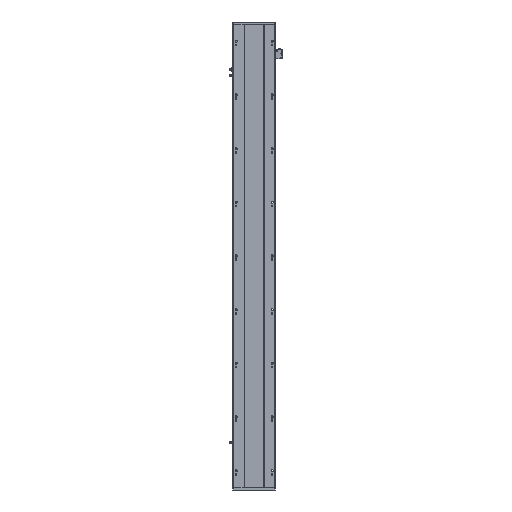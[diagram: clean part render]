
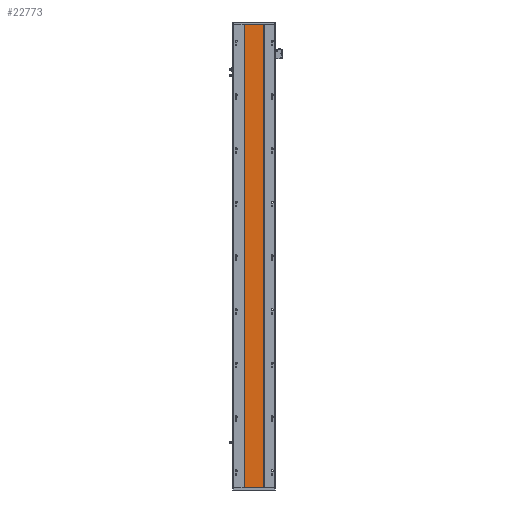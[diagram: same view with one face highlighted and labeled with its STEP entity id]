
A CAD part, front view. The second image highlights one B-rep face of the part: STEP entity #22773.
In plain terms, the highlighted planar face has unit normal (0, -1, 0).
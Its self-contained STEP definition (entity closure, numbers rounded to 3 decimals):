
#425 = CARTESIAN_POINT ( 'NONE',  ( 129.288, 16.9, 1864. ) ) ;
#1066 = LINE ( 'NONE', #23420, #14436 ) ;
#1741 = EDGE_CURVE ( 'NONE', #28875, #22300, #5512, .T. ) ;
#4676 = CARTESIAN_POINT ( 'NONE',  ( 205.288, 16.9, 1864. ) ) ;
#5512 = LINE ( 'NONE', #425, #18432 ) ;
#6709 = EDGE_CURVE ( 'NONE', #8878, #16691, #1066, .T. ) ;
#7249 = AXIS2_PLACEMENT_3D ( 'NONE', #4676, #19497, #22190 ) ;
#7936 = CARTESIAN_POINT ( 'NONE',  ( 129.288, 16.9, 0. ) ) ;
#8878 = VERTEX_POINT ( 'NONE', #13503 ) ;
#11736 = ORIENTED_EDGE ( 'NONE', *, *, #21403, .F. ) ;
#11848 = FACE_OUTER_BOUND ( 'NONE', #20132, .T. ) ;
#13503 = CARTESIAN_POINT ( 'NONE',  ( 205.288, 16.9, 1864. ) ) ;
#13556 = PLANE ( 'NONE',  #7249 ) ;
#13667 = DIRECTION ( 'NONE',  ( 1., 0., 0. ) ) ;
#13749 = VECTOR ( 'NONE', #13667, 1000. ) ;
#13807 = ORIENTED_EDGE ( 'NONE', *, *, #1741, .T. ) ;
#14436 = VECTOR ( 'NONE', #29069, 1000. ) ;
#15100 = ORIENTED_EDGE ( 'NONE', *, *, #6709, .F. ) ;
#16691 = VERTEX_POINT ( 'NONE', #27665 ) ;
#17854 = EDGE_CURVE ( 'NONE', #22300, #16691, #22315, .T. ) ;
#18432 = VECTOR ( 'NONE', #32645, 1000. ) ;
#19123 = CARTESIAN_POINT ( 'NONE',  ( 205.288, 16.9, 0. ) ) ;
#19497 = DIRECTION ( 'NONE',  ( 0., 1., 0. ) ) ;
#20132 = EDGE_LOOP ( 'NONE', ( #32723, #15100, #11736, #13807 ) ) ;
#21403 = EDGE_CURVE ( 'NONE', #28875, #8878, #36231, .T. ) ;
#22190 = DIRECTION ( 'NONE',  ( -1., 0., 0. ) ) ;
#22300 = VERTEX_POINT ( 'NONE', #7936 ) ;
#22315 = LINE ( 'NONE', #19123, #36949 ) ;
#22773 = ADVANCED_FACE ( 'NONE', ( #11848 ), #13556, .F. ) ;
#23420 = CARTESIAN_POINT ( 'NONE',  ( 205.288, 16.9, 1864. ) ) ;
#25227 = CARTESIAN_POINT ( 'NONE',  ( 129.288, 16.9, 1864. ) ) ;
#27665 = CARTESIAN_POINT ( 'NONE',  ( 205.288, 16.9, 0. ) ) ;
#28193 = DIRECTION ( 'NONE',  ( 1., 0., 0. ) ) ;
#28875 = VERTEX_POINT ( 'NONE', #33796 ) ;
#29069 = DIRECTION ( 'NONE',  ( 0., 0., -1. ) ) ;
#32645 = DIRECTION ( 'NONE',  ( 0., 0., -1. ) ) ;
#32723 = ORIENTED_EDGE ( 'NONE', *, *, #17854, .T. ) ;
#33796 = CARTESIAN_POINT ( 'NONE',  ( 129.288, 16.9, 1864. ) ) ;
#36231 = LINE ( 'NONE', #25227, #13749 ) ;
#36949 = VECTOR ( 'NONE', #28193, 1000. ) ;
